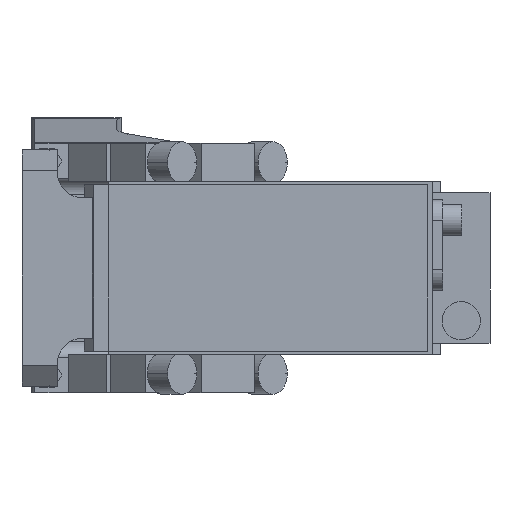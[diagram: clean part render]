
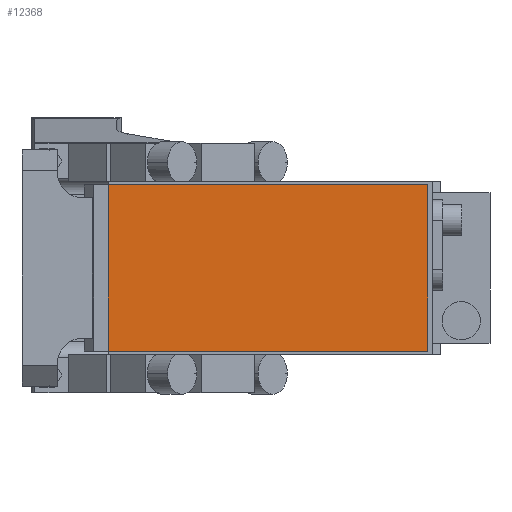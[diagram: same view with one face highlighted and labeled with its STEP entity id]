
A CAD part, front view. The second image highlights one B-rep face of the part: STEP entity #12368.
In plain terms, the highlighted planar face has unit normal (0, -1, 0).
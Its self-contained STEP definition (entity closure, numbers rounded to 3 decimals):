
#18 = EDGE_CURVE ( 'NONE', #7382, #5983, #9736, .T. ) ;
#1624 = DIRECTION ( 'NONE',  ( -1., 0., 0. ) ) ;
#1708 = CARTESIAN_POINT ( 'NONE',  ( -19., -286.5, -26. ) ) ;
#1891 = DIRECTION ( 'NONE',  ( 0., -1., 0. ) ) ;
#2103 = CARTESIAN_POINT ( 'NONE',  ( 81., -286.5, 26. ) ) ;
#3589 = CARTESIAN_POINT ( 'NONE',  ( -19., -286.5, -26. ) ) ;
#3894 = EDGE_CURVE ( 'NONE', #5498, #7382, #14807, .T. ) ;
#5227 = FACE_OUTER_BOUND ( 'NONE', #14774, .T. ) ;
#5268 = ORIENTED_EDGE ( 'NONE', *, *, #10605, .T. ) ;
#5305 = CARTESIAN_POINT ( 'NONE',  ( -19., -286.5, 26. ) ) ;
#5498 = VERTEX_POINT ( 'NONE', #10743 ) ;
#5713 = CARTESIAN_POINT ( 'NONE',  ( -19., -286.5, 26. ) ) ;
#5983 = VERTEX_POINT ( 'NONE', #5713 ) ;
#7382 = VERTEX_POINT ( 'NONE', #13095 ) ;
#7979 = CARTESIAN_POINT ( 'NONE',  ( -19., -286.5, 26. ) ) ;
#8137 = DIRECTION ( 'NONE',  ( 0., 0., -1. ) ) ;
#8298 = VECTOR ( 'NONE', #1624, 1000. ) ;
#9112 = LINE ( 'NONE', #7979, #11568 ) ;
#9736 = LINE ( 'NONE', #5305, #8298 ) ;
#9878 = DIRECTION ( 'NONE',  ( 0., 0., -1. ) ) ;
#10605 = EDGE_CURVE ( 'NONE', #12148, #5498, #14491, .T. ) ;
#10743 = CARTESIAN_POINT ( 'NONE',  ( 81., -286.5, -26. ) ) ;
#10851 = AXIS2_PLACEMENT_3D ( 'NONE', #13320, #1891, #9878 ) ;
#11568 = VECTOR ( 'NONE', #8137, 1000. ) ;
#12065 = EDGE_CURVE ( 'NONE', #5983, #12148, #9112, .T. ) ;
#12148 = VERTEX_POINT ( 'NONE', #3589 ) ;
#12327 = ORIENTED_EDGE ( 'NONE', *, *, #12065, .T. ) ;
#12368 = ADVANCED_FACE ( 'NONE', ( #5227 ), #13453, .T. ) ;
#13095 = CARTESIAN_POINT ( 'NONE',  ( 81., -286.5, 26. ) ) ;
#13210 = ORIENTED_EDGE ( 'NONE', *, *, #3894, .T. ) ;
#13320 = CARTESIAN_POINT ( 'NONE',  ( 0., -286.5, 0. ) ) ;
#13453 = PLANE ( 'NONE',  #10851 ) ;
#13667 = DIRECTION ( 'NONE',  ( 0., 0., 1. ) ) ;
#13871 = ORIENTED_EDGE ( 'NONE', *, *, #18, .T. ) ;
#14232 = VECTOR ( 'NONE', #13667, 1000. ) ;
#14491 = LINE ( 'NONE', #1708, #14954 ) ;
#14559 = DIRECTION ( 'NONE',  ( 1., 0., 0. ) ) ;
#14774 = EDGE_LOOP ( 'NONE', ( #12327, #5268, #13210, #13871 ) ) ;
#14807 = LINE ( 'NONE', #2103, #14232 ) ;
#14954 = VECTOR ( 'NONE', #14559, 1000. ) ;
